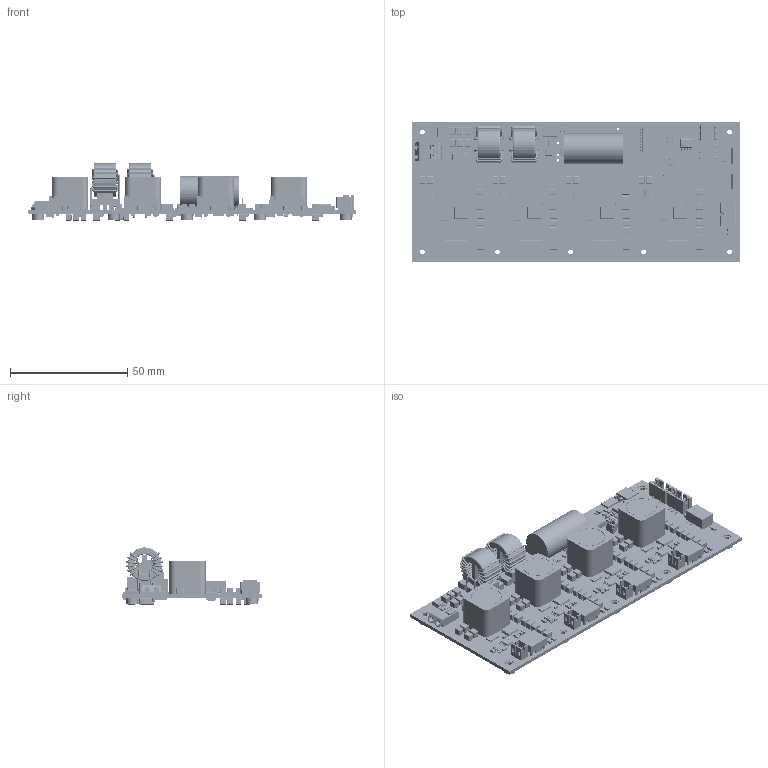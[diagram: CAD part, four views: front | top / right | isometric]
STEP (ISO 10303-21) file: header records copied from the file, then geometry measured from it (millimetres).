
FILE_DESCRIPTION(('STEP AP214'),'1');
FILE_NAME('DDS1141 REVA.stp','2021-11-09T10:48:05',(' '),(' '),'Spatial InterOp 3D',' ',' ');
FILE_SCHEMA(('AUTOMOTIVE_DESIGN { 1 0 10303 214 1 1 1 1 }'));
Length unit declared in the file: millimetre
Products named in the file (312): 468982 DDS1141 REVA; BOARD; Plating(Lead hole); FORO NM-3.70 mm con PAD 236 mils WA-SMSI WURTH 9774025151@FIX1; L17192-RELE SMD HFD4 series HONGFA@K1; FORO NM-3.70 mm con PAD 236 mils WA-SMSI WURTH 9774025151@FIX3; L2519-0603@C16; L16950-Bourns TBU-CAxxx-xxx-WH@TBU2; L18315-SOD123Flat ST@D3; L2519-0603@R31; L2519-0603@C41; L15776-01-FILTRO SMD WE-SL5 7442732xx WURTH@L13; L16950-Bourns TBU-CAxxx-xxx-WH@TBU1; L2519-0603@R8; L2519-0603@C31; L2519-0603@C39; L13602-PowerPAK SO8 SINGLE VISHAY@TR6; L8321-01-MSOP16+EXPOSED PAD MSE Package  LINEAR TECHNOLOGY@U10; L2519-0603@R73; L16623-CONN 2P VERT P2.00mm B2B-PH-K-S JST@J9; L1553-1206@C44; L13595-SOT23-5 TEXAS DBV@U2; L2519-0603@C111; L18446-SMPA DO-221BC VISHAY; L1556-SOT23@Q1; L13602-PowerPAK SO8 SINGLE VISHAY@TR3; L1557-0805@R92; L2519-0603@R79; L1557-0805@C97; L2519-0603@R32; L1557-0805@R95; L1553-1206@C43; L2519-0603@R64; L2519-0603@R60; L13289-QUARZO SMD 3.2X2.50mm C3E AKER; L1556-SOT23@TR2; L2519-0603@C78; L13159-FUSE SMD NANO2 SMF - LITTELFUSE 451-452-453-454@F1; L2519-0603@R51; L2519-0603@R50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
Assembly tree (314 placements, depth 2):
  468982 DDS1141 REVA
    BOARD
    Plating(Lead hole)
    FORO NM-3.70 mm con PAD 236 mils WA-SMSI WURTH 9774025151@FIX1
    L17192-RELE SMD HFD4 series HONGFA@K1
    FORO NM-3.70 mm con PAD 236 mils WA-SMSI WURTH 9774025151@FIX3
    L2519-0603@C16
    L16950-Bourns TBU-CAxxx-xxx-WH@TBU2
    L18315-SOD123Flat ST@D3
    L2519-0603@R31
    L2519-0603@C41
    L15776-01-FILTRO SMD WE-SL5 7442732xx WURTH@L13
    L16950-Bourns TBU-CAxxx-xxx-WH@TBU1
    L2519-0603@R8
    L2519-0603@C31
    L2519-0603@C39
    L13602-PowerPAK SO8 SINGLE VISHAY@TR6
    L8321-01-MSOP16+EXPOSED PAD MSE Package  LINEAR TECHNOLOGY@U10
    L2519-0603@R73
    L16623-CONN 2P VERT P2.00mm B2B-PH-K-S JST@J9
    L1553-1206@C44
    L13595-SOT23-5 TEXAS DBV@U2
    L2519-0603@C111
    L18446-SMPA DO-221BC VISHAY  x4
    L1556-SOT23@Q1
    L13602-PowerPAK SO8 SINGLE VISHAY@TR3
    L1557-0805@R92
    L2519-0603@R79
    L1557-0805@C97
    L2519-0603@R32
    L1557-0805@R95
    L1553-1206@C43
    L2519-0603@R64
    L2519-0603@R60
    L13289-QUARZO SMD 3.2X2.50mm C3E AKER
    L1556-SOT23@TR2
    L2519-0603@C78
    L13159-FUSE SMD NANO2 SMF - LITTELFUSE 451-452-453-454@F1
    L2519-0603@R51
    L2519-0603@R50
    L8321-01-MSOP16+EXPOSED PAD MSE Package  LINEAR TECHNOLOGY@U8
    L18315-SOD123Flat ST@D16
    L1557-0805@R91
    L2519-0603@C48
    L2519-0603@R12
    L2519-0603@R87
    L2519-0603@C101
    L8321-01-MSOP16+EXPOSED PAD MSE Package  LINEAR TECHNOLOGY@U7
    L2519-0603@R30
    L2519-0603@R85
    L1557-0805@C34
    L2519-0603@R69
    L2519-0603@R71
    L2519-0603@R72
    L1557-0805@C42
    L13602-PowerPAK SO8 SINGLE VISHAY@TR4
    L2519-0603@C88
    L2519-0603@R23
    L1557-0805@C110
    L1557-0805@C107
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Bounding box: 140 x 60 x 24.41 mm (x, y, z)
Volume: 39634.3 mm3; surface area: 46175.8 mm2
Topology: 472 solids, 480 shells, 18328 faces, 47628 edges, 30175 vertices
Faces by surface type: plane 8598, cylinder 6525, bspline 1421, sphere 902, torus 848, extrusion 34
Entity records: 816173 total; most frequent: CARTESIAN_POINT 225801, DIRECTION 94086, ORIENTED_EDGE 93456, EDGE_CURVE 46741, AXIS2_PLACEMENT_3D 33462, VERTEX_POINT 30147, VECTOR 27162, LINE 27128
